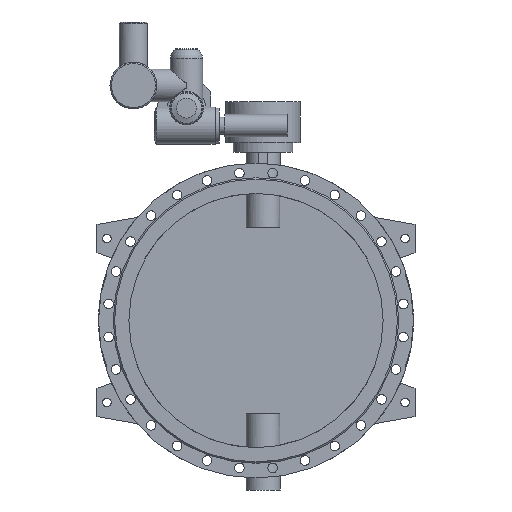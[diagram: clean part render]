
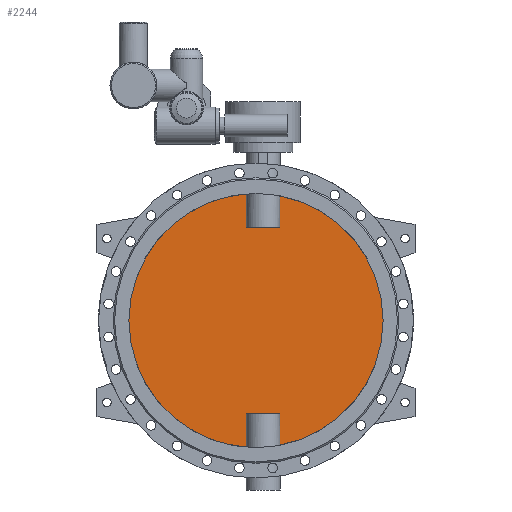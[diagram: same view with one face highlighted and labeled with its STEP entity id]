
A CAD part, front view. The second image highlights one B-rep face of the part: STEP entity #2244.
In plain terms, the highlighted planar face has unit normal (0, -1, 0).
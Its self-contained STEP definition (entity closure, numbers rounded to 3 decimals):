
#2244=ADVANCED_FACE('',(#4567),#4569,.F.);
#4567=FACE_BOUND('',#4568,.T.);
#4568=EDGE_LOOP('',(#5575,#5576,#5577,#5578,#5579,#5580,#5581,#5582));
#4569=PLANE('',#4570);
#4570=AXIS2_PLACEMENT_3D('',#4571,#4572,#4573);
#4571=CARTESIAN_POINT('',(0.,-5.,0.));
#4572=DIRECTION('',(0.,1.,0.));
#4573=DIRECTION('',(1.,0.,0.));
#5575=ORIENTED_EDGE('',*,*,#6080,.T.);
#5576=ORIENTED_EDGE('',*,*,#6085,.T.);
#5577=ORIENTED_EDGE('',*,*,#6086,.T.);
#5578=ORIENTED_EDGE('',*,*,#6087,.T.);
#5579=ORIENTED_EDGE('',*,*,#6082,.T.);
#5580=ORIENTED_EDGE('',*,*,#6088,.T.);
#5581=ORIENTED_EDGE('',*,*,#6089,.T.);
#5582=ORIENTED_EDGE('',*,*,#6090,.T.);
#6080=EDGE_CURVE('',#6973,#6974,#6975,.F.);
#6082=EDGE_CURVE('',#6978,#6976,#6979,.F.);
#6085=EDGE_CURVE('',#6974,#6983,#6984,.T.);
#6086=EDGE_CURVE('',#6983,#6985,#6986,.F.);
#6087=EDGE_CURVE('',#6985,#6978,#6987,.F.);
#6088=EDGE_CURVE('',#6976,#6988,#6989,.F.);
#6089=EDGE_CURVE('',#6988,#6990,#6991,.F.);
#6090=EDGE_CURVE('',#6990,#6973,#6992,.T.);
#6973=VERTEX_POINT('',#11367);
#6974=VERTEX_POINT('',#11368);
#6975=CIRCLE('',#11369,450.);
#6976=VERTEX_POINT('',#11373);
#6978=VERTEX_POINT('',#11463);
#6979=CIRCLE('',#11464,450.);
#6983=VERTEX_POINT('',#11579);
#6984=LINE('',#11580,#11581);
#6985=VERTEX_POINT('',#11583);
#6986=LINE('',#11584,#11585);
#6987=LINE('',#11587,#11588);
#6988=VERTEX_POINT('',#11590);
#6989=LINE('',#11591,#11592);
#6990=VERTEX_POINT('',#11594);
#6991=LINE('',#11595,#11596);
#6992=LINE('',#11598,#11599);
#11367=CARTESIAN_POINT('',(84.791,-5.,-441.939));
#11368=CARTESIAN_POINT('',(84.791,-5.,441.939));
#11369=AXIS2_PLACEMENT_3D('',#11370,#11371,#11372);
#11370=CARTESIAN_POINT('',(0.,-5.,0.));
#11371=DIRECTION('',(0.,1.,0.));
#11372=DIRECTION('',(0.188,0.,0.982));
#11373=CARTESIAN_POINT('',(-34.791,-5.,-448.653));
#11463=CARTESIAN_POINT('',(-34.791,-5.,448.653));
#11464=AXIS2_PLACEMENT_3D('',#11465,#11466,#11467);
#11465=CARTESIAN_POINT('',(0.,-5.,0.));
#11466=DIRECTION('',(0.,1.,0.));
#11467=DIRECTION('',(-0.077,0.,-0.997));
#11579=CARTESIAN_POINT('',(84.791,-5.,330.));
#11580=CARTESIAN_POINT('',(84.791,-5.,441.939));
#11581=VECTOR('',#11582,1.);
#11582=DIRECTION('',(0.,0.,-1.));
#11583=CARTESIAN_POINT('',(-34.791,-5.,330.));
#11584=CARTESIAN_POINT('',(-34.791,-5.,330.));
#11585=VECTOR('',#11586,1.);
#11586=DIRECTION('',(1.,0.,0.));
#11587=CARTESIAN_POINT('',(-34.791,-5.,448.653));
#11588=VECTOR('',#11589,1.);
#11589=DIRECTION('',(0.,0.,-1.));
#11590=CARTESIAN_POINT('',(-34.791,-5.,-330.));
#11591=CARTESIAN_POINT('',(-34.791,-5.,-330.));
#11592=VECTOR('',#11593,1.);
#11593=DIRECTION('',(0.,0.,-1.));
#11594=CARTESIAN_POINT('',(84.791,-5.,-330.));
#11595=CARTESIAN_POINT('',(84.791,-5.,-330.));
#11596=VECTOR('',#11597,1.);
#11597=DIRECTION('',(-1.,0.,0.));
#11598=CARTESIAN_POINT('',(84.791,-5.,-330.));
#11599=VECTOR('',#11600,1.);
#11600=DIRECTION('',(0.,0.,-1.));
